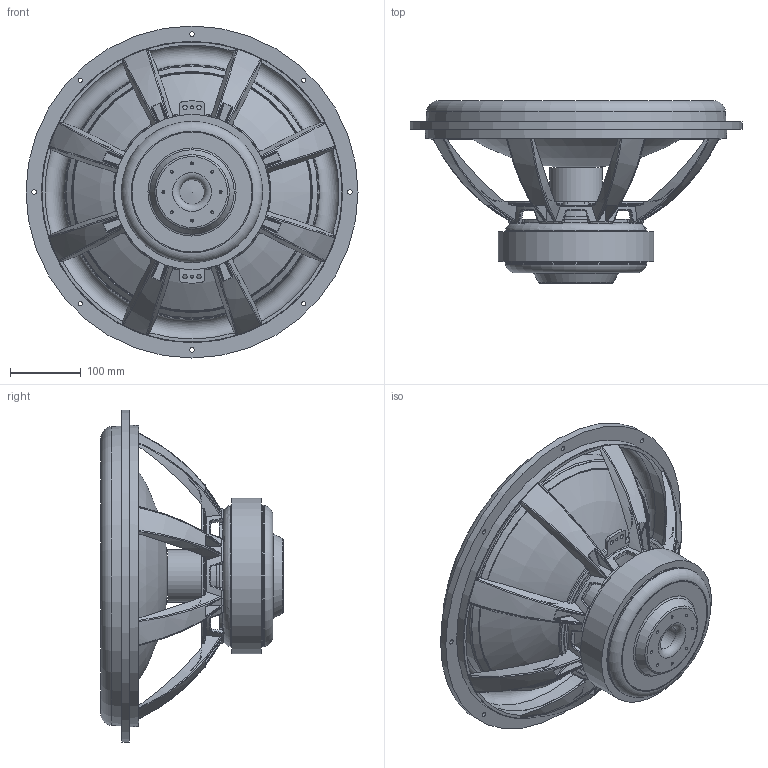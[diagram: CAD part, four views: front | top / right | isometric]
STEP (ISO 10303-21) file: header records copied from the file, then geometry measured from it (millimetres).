
FILE_DESCRIPTION(/* description */ (''),/* implementation_level */ '2;1');
FILE_NAME(/* name */ 'UMII18-22.step',/* time_stamp */ '2025-07-25T13:30:25-04:00',/* author */ (''),/* organization */ (''),/* preprocessor_version */ 'ST-DEVELOPER v20.1',/* originating_system */ 'Autodesk Translation Framework v14.10.0.0',/* authorisation */ '');
FILE_SCHEMA (('AUTOMOTIVE_DESIGN { 1 0 10303 214 3 1 1 }'));
Length unit declared in the file: millimetre
Products named in the file (2): ULTIMAX_II_18INCH_SUB_ASM; ST-LB-17006_V1
Assembly tree (1 placements, depth 2):
  ULTIMAX_II_18INCH_SUB_ASM
    ST-LB-17006_V1
Bounding box: 470 x 258.5 x 470 mm (x, y, z)
Volume: 3770874.5 mm3; surface area: 989755 mm2
Topology: 2 solids, 3 shells, 666 faces, 1827 edges, 1165 vertices
Faces by surface type: bspline 204, cylinder 175, plane 156, torus 97, cone 32, sphere 2
Full cylindrical faces by diameter (mm): 4 x8, 4.3 x2, 5.5 x6, 6 x6, 6.3 x4, 6.5 x8, 35 x1, 44.1 x1, 73.85 x1, 74.85 x1, 87.679 x2, 100 x1, 105 x1, 120 x1, 169.7 x1, 170 x1, 199 x1, 200 x2, 220 x1, 429 x1, 470 x1
Entity records: 48077 total; most frequent: CARTESIAN_POINT 31998, ORIENTED_EDGE 3666, DIRECTION 3119, EDGE_CURVE 1833, AXIS2_PLACEMENT_3D 1389, VERTEX_POINT 1173, CIRCLE 820, EDGE_LOOP 758
